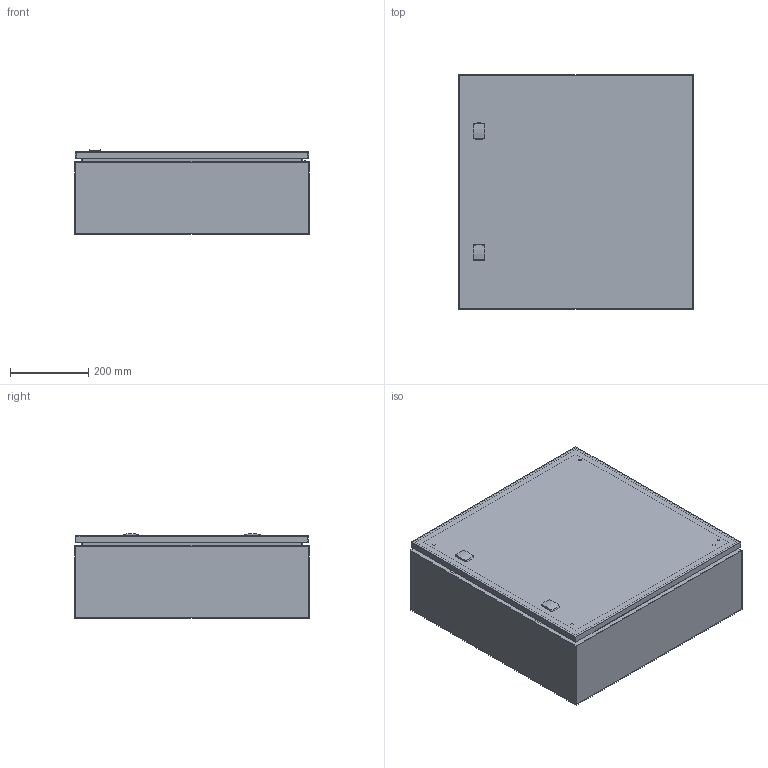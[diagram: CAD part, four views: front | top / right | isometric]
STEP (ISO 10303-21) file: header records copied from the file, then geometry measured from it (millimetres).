
FILE_DESCRIPTION(/* description */ ('STEP AP203'),/* implementation_level */ '2;1');
FILE_NAME(/* name */ 'ASR0606021(0)',/* time_stamp */ '2024-03-08T10:50:24+01:00',/* author */ ('License CC BY-ND 4.0'),/* organization */ ('CADENAS'),/* preprocessor_version */ 'ST-DEVELOPER v19.3',/* originating_system */ 'PARTsolutions',/* authorisation */ ' ');
FILE_SCHEMA (('CONFIG_CONTROL_DESIGN'));
Length unit declared in the file: millimetre
Products named in the file (6): ASR0606021(0); ASR0606021(0)_P1; MMSH06SS(0)_right; ADPS06060(0); ALLS503_304(0,0,27.3); AMP06060_MPL(0)
Assembly tree (7 placements, depth 2):
  ASR0606021(0)
    ASR0606021(0)_P1
    MMSH06SS(0)_right  x2
    ADPS06060(0)
    ALLS503_304(0,0,27.3)  x2
    AMP06060_MPL(0)
Bounding box: 600 x 600 x 216.7 mm (x, y, z)
Volume: 3024315.1 mm3; surface area: 3252586.3 mm2
Topology: 7 solids, 7 shells, 371 faces, 881 edges, 573 vertices
Faces by surface type: plane 247, cylinder 102, cone 20, torus 2
Full cylindrical faces by diameter (mm): 4.9 x2, 6 x4, 7 x4, 7.22 x1, 7.25 x5, 8 x6, 9 x3, 9.08 x5, 16 x6, 18 x2, 27 x2
Entity records: 8497 total; most frequent: CARTESIAN_POINT 1411, DIRECTION 1359, ORIENTED_EDGE 1232, EDGE_CURVE 616, AXIS2_PLACEMENT_3D 467, VERTEX_POINT 429, LINE 425, VECTOR 425
